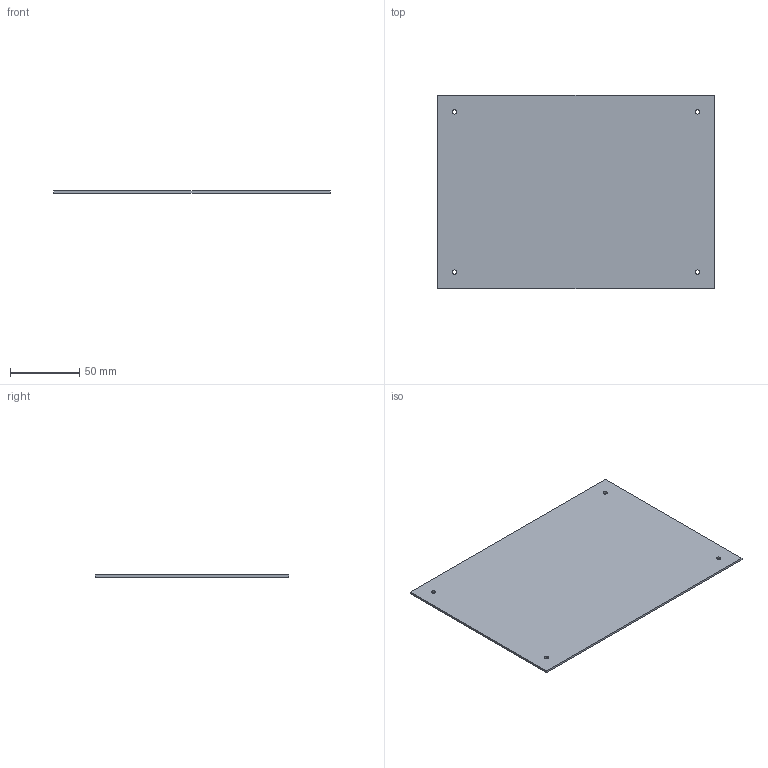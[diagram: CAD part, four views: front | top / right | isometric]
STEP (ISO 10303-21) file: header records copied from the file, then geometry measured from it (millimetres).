
FILE_DESCRIPTION(('KiCad electronic assembly'),'2;1');
FILE_NAME('board.step','2026-08-09T15:51:04',('Pcbnew'),('Kicad'), 'Open CASCADE STEP processor 7.9','KiCad to STEP converter','Unknown' );
FILE_SCHEMA(('AUTOMOTIVE_DESIGN { 1 0 10303 214 1 1 1 1 }'));
Length unit declared in the file: millimetre
Products named in the file (2): board 1; dock_PCB
Assembly tree (1 placements, depth 2):
  board 1
    dock_PCB
Bounding box: 200 x 140 x 1.51 mm (x, y, z)
Volume: 42231.4 mm3; surface area: 57023.2 mm2
Topology: 1 solids, 1 shells, 10 faces, 24 edges, 16 vertices
Faces by surface type: plane 6, cylinder 4
Full cylindrical faces by diameter (mm): 3.2 x4
Entity records: 349 total; most frequent: DIRECTION 56, CARTESIAN_POINT 52, ORIENTED_EDGE 48, EDGE_CURVE 24, AXIS2_PLACEMENT_3D 20, FACE_BOUND 18, EDGE_LOOP 18, VERTEX_POINT 16
